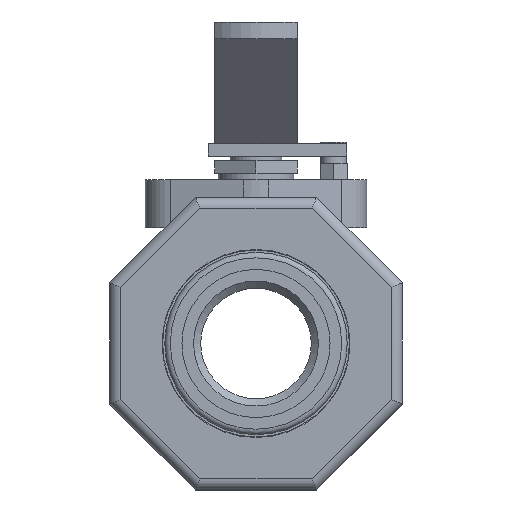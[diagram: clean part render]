
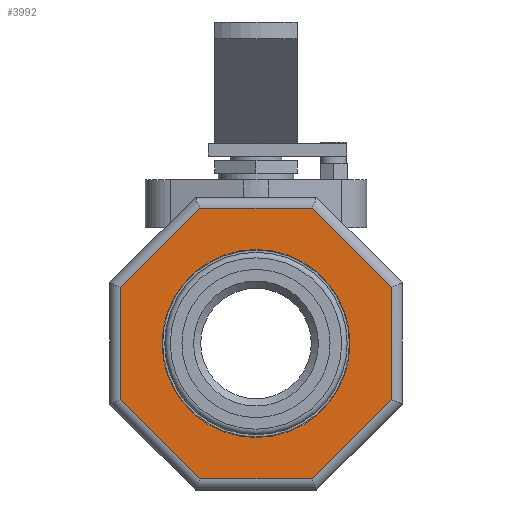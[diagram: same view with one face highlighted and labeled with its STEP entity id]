
A CAD part, left-side view. The second image highlights one B-rep face of the part: STEP entity #3992.
In plain terms, the highlighted planar face has unit normal (-1, 0, 0).
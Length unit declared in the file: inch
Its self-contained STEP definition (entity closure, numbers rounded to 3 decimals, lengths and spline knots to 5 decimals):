
#3711=CARTESIAN_POINT('',(0.73,1.225,-0.50741));
#3712=VERTEX_POINT('',#3711);
#3713=CARTESIAN_POINT('',(0.73,1.225,0.50741));
#3714=VERTEX_POINT('',#3713);
#3715=CARTESIAN_POINT('',(0.73,1.225,-0.50741));
#3716=DIRECTION('',(0.0,0.0,1.0));
#3717=VECTOR('',#3716,1.01482);
#3718=LINE('',#3715,#3717);
#3719=EDGE_CURVE('',#3712,#3714,#3718,.T.);
#3751=CARTESIAN_POINT('',(0.73,0.50741,1.225));
#3752=VERTEX_POINT('',#3751);
#3753=CARTESIAN_POINT('',(0.73,1.225,0.50741));
#3754=DIRECTION('',(0.0,-0.707,0.707));
#3755=VECTOR('',#3754,1.01482);
#3756=LINE('',#3753,#3755);
#3757=EDGE_CURVE('',#3714,#3752,#3756,.T.);
#3783=CARTESIAN_POINT('',(0.73,-0.50741,1.225));
#3784=VERTEX_POINT('',#3783);
#3785=CARTESIAN_POINT('',(0.73,0.50741,1.225));
#3786=DIRECTION('',(0.0,-1.0,0.0));
#3787=VECTOR('',#3786,1.01482);
#3788=LINE('',#3785,#3787);
#3789=EDGE_CURVE('',#3752,#3784,#3788,.T.);
#3815=CARTESIAN_POINT('',(0.73,-1.225,-0.50741));
#3816=VERTEX_POINT('',#3815);
#3817=CARTESIAN_POINT('',(0.73,-0.50741,-1.225));
#3818=VERTEX_POINT('',#3817);
#3819=CARTESIAN_POINT('',(0.73,-1.225,-0.50741));
#3820=DIRECTION('',(0.0,0.707,-0.707));
#3821=VECTOR('',#3820,1.01482);
#3822=LINE('',#3819,#3821);
#3823=EDGE_CURVE('',#3816,#3818,#3822,.T.);
#3848=CARTESIAN_POINT('',(0.73,-1.225,0.50741));
#3849=VERTEX_POINT('',#3848);
#3850=CARTESIAN_POINT('',(0.73,-0.50741,1.225));
#3851=DIRECTION('',(0.0,-0.707,-0.707));
#3852=VECTOR('',#3851,1.01482);
#3853=LINE('',#3850,#3852);
#3854=EDGE_CURVE('',#3784,#3849,#3853,.T.);
#3878=CARTESIAN_POINT('',(0.73,-1.225,0.50741));
#3879=DIRECTION('',(0.0,0.0,-1.0));
#3880=VECTOR('',#3879,1.01482);
#3881=LINE('',#3878,#3880);
#3882=EDGE_CURVE('',#3849,#3816,#3881,.T.);
#3895=CARTESIAN_POINT('',(0.73,0.50741,-1.225));
#3896=VERTEX_POINT('',#3895);
#3897=CARTESIAN_POINT('',(0.73,-0.50741,-1.225));
#3898=DIRECTION('',(0.0,1.0,0.0));
#3899=VECTOR('',#3898,1.01482);
#3900=LINE('',#3897,#3899);
#3901=EDGE_CURVE('',#3818,#3896,#3900,.T.);
#3920=CARTESIAN_POINT('',(0.73,0.50741,-1.225));
#3921=DIRECTION('',(0.0,0.707,0.707));
#3922=VECTOR('',#3921,1.01482);
#3923=LINE('',#3920,#3922);
#3924=EDGE_CURVE('',#3896,#3712,#3923,.T.);
#3966=CARTESIAN_POINT('',(0.73,0.0,0.));
#3967=DIRECTION('',(1.0,0.0,0.0));
#3968=DIRECTION('',(0.0,0.0,-1.0));
#3969=AXIS2_PLACEMENT_3D('',#3966,#3967,#3968);
#3970=PLANE('',#3969);
#3971=ORIENTED_EDGE('',*,*,#3823,.F.);
#3972=ORIENTED_EDGE('',*,*,#3882,.F.);
#3973=ORIENTED_EDGE('',*,*,#3854,.F.);
#3974=ORIENTED_EDGE('',*,*,#3789,.F.);
#3975=ORIENTED_EDGE('',*,*,#3757,.F.);
#3976=ORIENTED_EDGE('',*,*,#3719,.F.);
#3977=ORIENTED_EDGE('',*,*,#3924,.F.);
#3978=ORIENTED_EDGE('',*,*,#3901,.F.);
#3979=EDGE_LOOP('',(#3971,#3972,#3973,#3974,#3975,#3976,#3977,#3978));
#3980=FACE_OUTER_BOUND('',#3979,.T.);
#3981=CARTESIAN_POINT('',(0.73,-0.85,0.0));
#3982=VERTEX_POINT('',#3981);
#3983=CARTESIAN_POINT('',(0.73,0.0,0.0));
#3984=DIRECTION('',(1.0,0.0,0.0));
#3985=DIRECTION('',(0.0,1.0,0.0));
#3986=AXIS2_PLACEMENT_3D('',#3983,#3984,#3985);
#3987=CIRCLE('',#3986,0.85);
#3988=EDGE_CURVE('',#3982,#3982,#3987,.T.);
#3989=ORIENTED_EDGE('',*,*,#3988,.T.);
#3990=EDGE_LOOP('',(#3989));
#3991=FACE_BOUND('',#3990,.T.);
#3992=ADVANCED_FACE('',(#3980,#3991),#3970,.F.);
